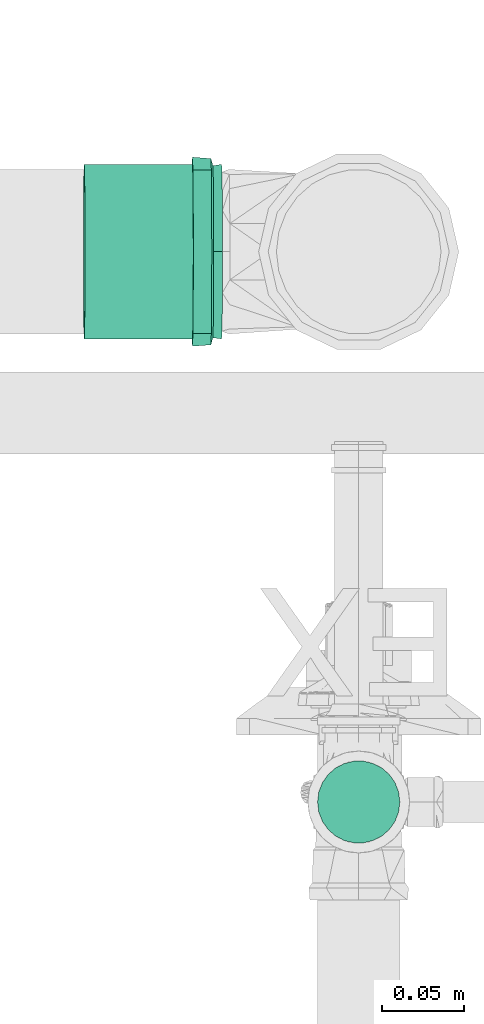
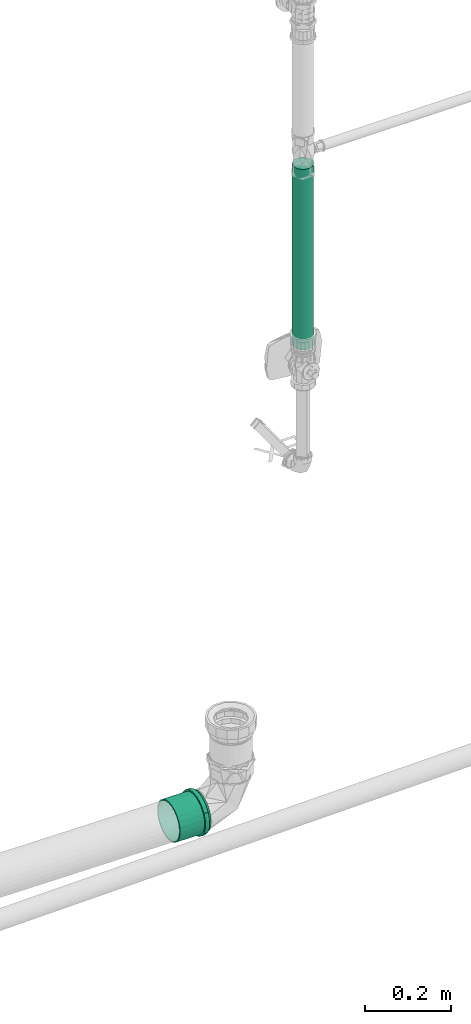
# One storey, part 244 of 589: 1 flow fitting, 1 flow segment.
"""IFC2X3 building model written with IfcOpenShell, lengths in millimetres."""

from ifc_helpers import new_model, entity, si_unit, converted_unit, derived_unit, direction, frame, frame_2d, origin, place, context, subcontext, project, spatial, circle, extrude, faceted_brep, source, transform, mapped, material, type_object, type_shapes, element, save


model = new_model("IFC2X3")

# Units and contexts
model_context = context("Model", 3, precision=0.01, world=origin(), true_north=direction((6.123031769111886e-17, 1.0)))
body_context = subcontext(model_context, "Body", "Model", "MODEL_VIEW")
ifc_project = project(units=[si_unit("LENGTHUNIT", "METRE", prefix="MILLI"), si_unit("AREAUNIT", "SQUARE_METRE"), si_unit("VOLUMEUNIT", "CUBIC_METRE"), converted_unit("PLANEANGLEUNIT", "DEGREE", entity("IfcRatioMeasure", 0.017453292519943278), si_unit("PLANEANGLEUNIT", "RADIAN"), dimensions=[0, 0, 0, 0, 0, 0, 0]), si_unit("MASSUNIT", "GRAM", prefix="KILO"), derived_unit("MASSDENSITYUNIT", [(si_unit("MASSUNIT", "GRAM", prefix="KILO"), 1), (si_unit("LENGTHUNIT", "METRE"), -3)]), derived_unit("IONCONCENTRATIONUNIT", [(si_unit("MASSUNIT", "GRAM", prefix="KILO"), 1), (si_unit("LENGTHUNIT", "METRE"), -3)]), derived_unit("MOMENTOFINERTIAUNIT", [(si_unit("LENGTHUNIT", "METRE"), 4)]), si_unit("TIMEUNIT", "SECOND"), si_unit("FREQUENCYUNIT", "HERTZ"), si_unit("THERMODYNAMICTEMPERATUREUNIT", "DEGREE_CELSIUS"), derived_unit("THERMALTRANSMITTANCEUNIT", [(si_unit("MASSUNIT", "GRAM", prefix="KILO"), 1), (si_unit("THERMODYNAMICTEMPERATUREUNIT", "KELVIN"), -1), (si_unit("TIMEUNIT", "SECOND"), -3)]), derived_unit("THERMALCONDUCTANCEUNIT", [(si_unit("MASSUNIT", "GRAM", prefix="KILO"), 1), (si_unit("THERMODYNAMICTEMPERATUREUNIT", "KELVIN"), -1), (si_unit("TIMEUNIT", "SECOND"), -3), (si_unit("LENGTHUNIT", "METRE"), 1)]), derived_unit("VOLUMETRICFLOWRATEUNIT", [(si_unit("LENGTHUNIT", "METRE"), 3), (si_unit("TIMEUNIT", "SECOND"), -1)]), derived_unit("MASSFLOWRATEUNIT", [(si_unit("MASSUNIT", "GRAM", prefix="KILO"), 1), (si_unit("TIMEUNIT", "SECOND"), -1)]), derived_unit("ROTATIONALFREQUENCYUNIT", [(si_unit("TIMEUNIT", "SECOND"), -1)]), si_unit("ELECTRICCURRENTUNIT", "AMPERE"), si_unit("ELECTRICVOLTAGEUNIT", "VOLT"), si_unit("POWERUNIT", "WATT"), si_unit("FORCEUNIT", "NEWTON", prefix="KILO"), si_unit("ILLUMINANCEUNIT", "LUX"), si_unit("LUMINOUSFLUXUNIT", "LUMEN"), si_unit("LUMINOUSINTENSITYUNIT", "CANDELA"), derived_unit("USERDEFINED", [(si_unit("MASSUNIT", "GRAM", prefix="KILO"), -1), (si_unit("LENGTHUNIT", "METRE"), -2), (si_unit("TIMEUNIT", "SECOND"), 3), (si_unit("LUMINOUSFLUXUNIT", "LUMEN"), 1)]), derived_unit("USERDEFINED", [(si_unit("MASSUNIT", "GRAM", prefix="KILO"), 1), (si_unit("TIMEUNIT", "SECOND"), -3), (si_unit("LENGTHUNIT", "METRE"), 3), (si_unit("ELECTRICCURRENTUNIT", "AMPERE"), -2)]), derived_unit("SOUNDPOWERUNIT", [(si_unit("MASSUNIT", "GRAM", prefix="KILO"), 1), (si_unit("TIMEUNIT", "SECOND"), -3), (si_unit("LENGTHUNIT", "METRE"), 2)]), derived_unit("SOUNDPRESSUREUNIT", [(si_unit("MASSUNIT", "GRAM", prefix="KILO"), 1), (si_unit("LENGTHUNIT", "METRE"), -1), (si_unit("TIMEUNIT", "SECOND"), -2)]), derived_unit("LINEARVELOCITYUNIT", [(si_unit("LENGTHUNIT", "METRE"), 1), (si_unit("TIMEUNIT", "SECOND"), -1)]), si_unit("PRESSUREUNIT", "PASCAL"), derived_unit("USERDEFINED", [(si_unit("MASSUNIT", "GRAM", prefix="KILO"), 1), (si_unit("LENGTHUNIT", "METRE"), -2), (si_unit("TIMEUNIT", "SECOND"), -2)]), derived_unit("LINEARFORCEUNIT", [(si_unit("MASSUNIT", "GRAM", prefix="KILO"), 1), (si_unit("TIMEUNIT", "SECOND"), -2)]), derived_unit("PLANARFORCEUNIT", [(si_unit("MASSUNIT", "GRAM", prefix="KILO"), 1), (si_unit("LENGTHUNIT", "METRE"), -1), (si_unit("TIMEUNIT", "SECOND"), -2)]), derived_unit("SPECIFICHEATCAPACITYUNIT", [(si_unit("THERMODYNAMICTEMPERATUREUNIT", "KELVIN"), -1), (si_unit("LENGTHUNIT", "METRE"), 2), (si_unit("TIMEUNIT", "SECOND"), -2)]), derived_unit("HEATINGVALUEUNIT", [(si_unit("LENGTHUNIT", "METRE"), 2), (si_unit("TIMEUNIT", "SECOND"), -2)]), derived_unit("VAPORPERMEABILITYUNIT", [(si_unit("LENGTHUNIT", "METRE"), -1), (si_unit("TIMEUNIT", "SECOND"), 1)]), derived_unit("DYNAMICVISCOSITYUNIT", [(si_unit("MASSUNIT", "GRAM", prefix="KILO"), 1), (si_unit("TIMEUNIT", "SECOND"), -1), (si_unit("LENGTHUNIT", "METRE"), -1)]), derived_unit("THERMALEXPANSIONCOEFFICIENTUNIT", [(si_unit("THERMODYNAMICTEMPERATUREUNIT", "KELVIN"), -1)]), derived_unit("MODULUSOFELASTICITYUNIT", [(si_unit("MASSUNIT", "GRAM", prefix="KILO"), 1), (si_unit("LENGTHUNIT", "METRE"), -1), (si_unit("TIMEUNIT", "SECOND"), -2)]), derived_unit("ISOTHERMALMOISTURECAPACITYUNIT", [(si_unit("LENGTHUNIT", "METRE"), 3), (si_unit("MASSUNIT", "GRAM", prefix="KILO"), -1)]), derived_unit("MOISTUREDIFFUSIVITYUNIT", [(si_unit("TIMEUNIT", "SECOND"), -1), (si_unit("LENGTHUNIT", "METRE"), 2)])], contexts=[model_context])

# Site, building, storey
site_placement = place(None, origin())
site = spatial("IfcSite", under=ifc_project, at=site_placement, Name="Default", CompositionType="ELEMENT")
building_placement = place(site_placement, origin())
building = spatial("IfcBuilding", under=site, at=building_placement, CompositionType="ELEMENT")
storey_placement = place(building_placement, frame((0.0, 0.0, 100.0)))
storey = spatial("IfcBuildingStorey", under=building, at=storey_placement, Name="TÉRREO", CompositionType="ELEMENT", Elevation=100.0)

# Flow segment
pipe_segment_type = type_object("IfcPipeSegmentType", Name="Tipos de tubos:PVC Marrom Soldável", PredefinedType="NOTDEFINED")
flow_segment_placement = place(storey_placement, origin())
element("IfcFlowSegment", 1, at=flow_segment_placement, inside=storey, type_object=pipe_segment_type, Name="Tipos de tubos:PVC Marrom Soldável", ObjectType="Tipos de tubos:PVC Marrom Soldável", context=body_context, shape_type="SweptSolid", body=[
    extrude(circle(Radius=25.0, at=frame_2d((1.6919798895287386e-14, 0.0), x_axis=(1.0, 0.0))), frame((-87.78535366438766, 3119.2147625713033, 1255.7041463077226)), (0.0, 0.0, 1.0), 511.6958536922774),
])

# Flow fitting
ifc_material = material(Name="PVC Série Normal")
pipe_fitting_type = type_object("IfcPipeFittingType", Name="PVC Esgoto_Luva Simples para Conexão_Rodrigo MEP:Standard", PredefinedType="NOTDEFINED", material=ifc_material)
shared_shape = source(origin(), body_context, "Body", "Brep", [
    faceted_brep([(17.770000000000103, 28.72500000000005, -49.753159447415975), (17.770000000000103, 40.62328457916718, -40.62328457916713), (17.770000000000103, 26.524999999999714, -45.94264767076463), (17.770000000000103, 13.730350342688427, -51.242365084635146), (17.770000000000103, 14.86915414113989, -55.49243872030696), (17.770000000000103, 37.5120147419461, -37.51201474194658), (17.770000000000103, 49.75315944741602, -28.724999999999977), (17.770000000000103, 45.94264767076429, -26.52500000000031), (17.770000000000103, 51.24236508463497, -13.730350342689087), (17.770000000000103, 55.49243872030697, -14.869154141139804), (17.770000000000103, 53.05, 0.0), (17.770000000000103, 57.45, 0.0), (17.770000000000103, 51.242365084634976, 13.730350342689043), (17.770000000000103, 55.49243872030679, 14.869154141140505), (17.770000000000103, 45.942647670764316, 26.52500000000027), (17.770000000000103, 49.753159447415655, 28.725000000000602), (17.770000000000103, 37.51201474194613, 37.51201474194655), (17.770000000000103, 40.62328457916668, 40.62328457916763), (17.770000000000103, 26.524999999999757, 45.9426476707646), (17.770000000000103, 28.72499999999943, 49.75315944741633), (17.770000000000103, 13.730350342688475, 51.24236508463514), (17.770000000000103, 14.8691541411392, 55.49243872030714), (17.770000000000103, 0.0, 53.05), (17.770000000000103, 0.0, 57.45), (17.770000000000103, -13.730350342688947, 51.24236508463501), (17.770000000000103, -14.869154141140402, 55.49243872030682), (17.770000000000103, -26.52500000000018, 45.94264767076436), (17.770000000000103, -28.725000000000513, 49.753159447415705), (17.770000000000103, -37.51201474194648, 37.5120147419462), (17.770000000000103, -40.62328457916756, 40.62328457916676), (17.770000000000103, -45.94264767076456, 26.524999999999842), (17.770000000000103, -49.7531594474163, 28.724999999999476), (17.770000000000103, -55.49243872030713, 14.869154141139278), (17.770000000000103, -51.24236508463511, 13.730350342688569), (17.770000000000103, -57.45, 0.0), (17.770000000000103, -53.05, 0.0), (17.770000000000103, -55.49243872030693, -14.86915414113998), (17.770000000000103, -51.24236508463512, -13.73035034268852), (17.770000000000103, -49.75315944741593, -28.72500000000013), (17.770000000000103, -45.942647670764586, -26.5249999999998), (17.770000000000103, -40.62328457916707, -40.62328457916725), (17.770000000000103, -37.512014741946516, -37.51201474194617), (17.770000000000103, -28.724999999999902, -49.75315944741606), (17.770000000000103, -26.525000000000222, -45.94264767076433), (17.770000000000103, -14.869154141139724, -55.492438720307), (17.770000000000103, -13.730350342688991, -51.242365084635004), (17.770000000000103, 0.0, -57.45), (17.770000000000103, 0.0, -53.05), (6.570000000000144, -19.34638876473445, 53.16657713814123), (6.57000000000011, -44.00761900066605, 36.93009572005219), (6.5700000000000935, -48.99626263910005, 28.290173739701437), (6.5700000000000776, -53.98490627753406, 19.65025175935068), (6.570000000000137, -28.721697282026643, 49.75506612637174), (6.570000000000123, -36.36465814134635, 43.34258092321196), (6.57000000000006, -55.71745313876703, 9.825125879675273), (6.570000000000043, -57.45, 0.0), (6.570000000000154, -9.971080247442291, 56.57808814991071), (6.570000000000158, 9.98234714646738, 56.576101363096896), (6.570000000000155, 0.005633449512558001, 56.577094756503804), (6.570000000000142, 36.37328876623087, 43.33533831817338), (6.570000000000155, 19.356976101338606, 53.16272339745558), (6.570000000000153, 28.73160505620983, 49.749345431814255), (6.5700000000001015, 53.988818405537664, 19.639500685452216), (6.570000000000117, 49.00189544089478, 28.280415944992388), (6.570000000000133, 44.01497247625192, 36.921331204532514), (6.570000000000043, 57.45, 0.0), (6.569999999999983, 44.01497247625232, -36.92133120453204), (6.569999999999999, 49.0018954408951, -28.280415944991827), (6.570000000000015, 53.98881840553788, -19.63950068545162), (6.569999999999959, 28.731605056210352, -49.74934543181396), (6.569999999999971, 36.37328876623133, -43.335338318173), (6.569999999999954, 19.35697610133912, -53.16272339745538), (6.569999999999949, 9.982347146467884, -56.57610136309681), (6.569999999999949, -9.97108024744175, -56.578088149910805), (6.569999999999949, 0.005633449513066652, -56.577094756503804), (6.569999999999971, -36.364658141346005, -43.34258092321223), (6.56999999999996, -28.72169728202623, -49.755066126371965), (6.569999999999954, -19.346388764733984, -53.16657713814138), (6.57000000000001, -53.984906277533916, -19.650251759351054), (6.569999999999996, -48.99626263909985, -28.290173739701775), (6.569999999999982, -44.007619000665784, -36.93009572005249), (6.570000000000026, -55.717453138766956, -9.825125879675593), (83.52000000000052, 26.525000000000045, -45.942647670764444), (83.52000000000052, 37.512014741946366, -37.51201474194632), (83.52000000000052, 25.0, -43.301270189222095), (83.52000000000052, 12.940952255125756, -48.2962913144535), (83.52000000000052, 13.73035034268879, -51.242365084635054), (83.52000000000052, 35.35533905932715, -35.355339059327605), (83.52000000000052, 45.94264767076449, -26.524999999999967), (83.52000000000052, 43.30127018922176, -25.0), (83.52000000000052, 48.29629131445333, -12.940952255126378), (83.52000000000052, 51.24236508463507, -13.730350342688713), (83.52000000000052, 50.0, 0.0), (83.52000000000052, 53.05, 0.0), (83.52000000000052, 48.296291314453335, 12.940952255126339), (83.52000000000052, 51.2423650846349, 13.73035034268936), (83.52000000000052, 43.30127018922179, 25.0), (83.52000000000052, 45.942647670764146, 26.525000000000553), (83.52000000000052, 35.35533905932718, 35.35533905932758), (83.52000000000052, 37.512014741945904, 37.512014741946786), (83.52000000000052, 25.0, 43.301270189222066), (83.52000000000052, 26.52499999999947, 45.94264767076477), (83.52000000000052, 12.9409522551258, 48.29629131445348), (83.52000000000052, 13.730350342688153, 51.242365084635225), (83.52000000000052, 0.0, 50.0), (83.52000000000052, 0.0, 53.05), (83.52000000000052, -12.94095225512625, 48.296291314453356), (83.52000000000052, -13.730350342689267, 51.24236508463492), (83.52000000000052, -25.0, 43.30127018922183), (83.52000000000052, -26.525000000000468, 45.942647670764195), (83.52000000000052, -35.355339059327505, 35.35533905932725), (83.52000000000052, -37.512014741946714, 37.51201474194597), (83.52000000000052, -43.30127018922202, 25.0), (83.52000000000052, -45.942647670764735, 26.524999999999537), (83.52000000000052, -51.24236508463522, 13.730350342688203), (83.52000000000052, -48.29629131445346, 12.94095225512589), (83.52000000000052, -53.05, 0.0), (83.52000000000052, -50.0, 0.0), (83.52000000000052, -51.242365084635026, -13.730350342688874), (83.52000000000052, -48.29629131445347, -12.940952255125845), (83.52000000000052, -45.9426476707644, -26.525000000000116), (83.52000000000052, -43.301270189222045, -25.0), (83.52000000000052, -37.51201474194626, -37.51201474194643), (83.52000000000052, -35.35533905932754, -35.355339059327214), (83.52000000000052, -26.524999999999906, -45.94264767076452), (83.52000000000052, -25.0, -43.30127018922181), (83.52000000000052, -13.730350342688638, -51.2423650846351), (83.52000000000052, -12.94095225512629, -48.29629131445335), (83.52000000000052, 0.0, -53.05), (83.52000000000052, 0.0, -50.0), (0.0, 25.0, -43.301270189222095), (0.0, 37.512014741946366, -37.51201474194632), (0.0, 26.525000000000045, -45.942647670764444), (0.0, 12.940952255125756, -48.2962913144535), (0.0, 35.35533905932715, -35.355339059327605), (0.0, 45.94264767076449, -26.524999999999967), (0.0, 43.30127018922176, -25.0), (0.0, 48.29629131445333, -12.940952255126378), (0.0, 51.24236508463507, -13.730350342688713), (0.0, 50.0, 0.0), (0.0, 53.05, 0.0), (0.0, 48.296291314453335, 12.940952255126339), (0.0, 51.2423650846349, 13.73035034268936), (0.0, 43.30127018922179, 25.0), (0.0, 45.942647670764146, 26.525000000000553), (0.0, 35.35533905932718, 35.35533905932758), (0.0, 37.512014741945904, 37.512014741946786), (0.0, 25.0, 43.301270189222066), (0.0, 26.52499999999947, 45.94264767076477), (0.0, 12.9409522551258, 48.29629131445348), (0.0, 13.730350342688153, 51.242365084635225), (0.0, 0.0, 50.0), (0.0, 0.0, 53.05), (0.0, -12.94095225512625, 48.296291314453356), (0.0, -13.730350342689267, 51.24236508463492), (0.0, -25.0, 43.30127018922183), (0.0, -26.525000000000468, 45.942647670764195), (0.0, -35.355339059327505, 35.35533905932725), (0.0, -37.512014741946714, 37.51201474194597), (0.0, -43.30127018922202, 25.0), (0.0, -45.942647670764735, 26.524999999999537), (0.0, -51.24236508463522, 13.730350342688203), (0.0, -48.29629131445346, 12.94095225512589), (0.0, -53.05, 0.0), (0.0, -50.0, 0.0), (0.0, -51.242365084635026, -13.730350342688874), (0.0, -48.29629131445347, -12.940952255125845), (0.0, -45.9426476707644, -26.525000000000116), (0.0, -43.301270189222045, -25.0), (0.0, -37.51201474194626, -37.51201474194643), (0.0, -35.35533905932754, -35.355339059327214), (0.0, -26.524999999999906, -45.94264767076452), (0.0, -25.0, -43.30127018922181), (0.0, -13.730350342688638, -51.2423650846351), (0.0, -12.94095225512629, -48.29629131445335), (0.0, 0.0, -53.05), (0.0, 0.0, -50.0), (0.0, 13.73035034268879, -51.242365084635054), (5.370000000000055, -53.05, 0.0), (5.370000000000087, -49.85079898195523, 18.143878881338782), (5.370000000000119, -40.63905406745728, 34.09941032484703), (5.370000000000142, -26.525801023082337, 45.942185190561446), (5.3700000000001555, -9.213250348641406, 52.24383712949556), (5.370000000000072, 51.44992493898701, 9.073243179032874), (5.370000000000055, 53.05, 0.0), (5.370000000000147, 26.523397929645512, 45.943572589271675), (5.370000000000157, 9.210517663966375, 52.244318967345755), (5.3700000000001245, 40.63727040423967, 34.10153594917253), (5.370000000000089, 49.84984987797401, 18.146486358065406), (5.370000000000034, 51.4499249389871, -9.073243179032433), (5.370000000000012, 49.84984987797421, -18.146486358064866), (5.369999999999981, 40.63727040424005, -34.101535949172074), (5.36999999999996, 26.523397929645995, -45.9435725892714), (5.369999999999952, 9.21051766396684, -52.24431896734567), (5.369999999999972, -26.52580102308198, -45.94218519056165), (5.369999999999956, -9.213250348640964, -52.24383712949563), (5.369999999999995, -40.63905406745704, -34.099410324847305), (5.370000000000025, -49.8507989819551, -18.143878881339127), (50.0, -50.0, 0.0), (50.0, 50.0, 0.0)], [[[0, 1, 2]], [[0, 2, 3]], [[3, 4, 0]], [[2, 1, 5]], [[6, 5, 1]], [[5, 6, 7]], [[7, 6, 8]], [[9, 8, 6]], [[9, 10, 8]], [[10, 9, 11]], [[12, 10, 11]], [[11, 13, 12]], [[12, 13, 14]], [[15, 14, 13]], [[14, 15, 16]], [[16, 15, 17]], [[18, 16, 17]], [[17, 19, 18]], [[18, 19, 20]], [[21, 20, 19]], [[20, 21, 22]], [[22, 21, 23]], [[22, 23, 24]], [[24, 23, 25]], [[24, 25, 26]], [[27, 26, 25]], [[27, 28, 26]], [[28, 27, 29]], [[29, 30, 28]], [[31, 30, 29]], [[30, 31, 32]], [[32, 33, 30]], [[34, 33, 32]], [[34, 35, 33]], [[36, 35, 34]], [[36, 37, 35]], [[37, 36, 38]], [[38, 39, 37]], [[39, 38, 40]], [[39, 40, 41]], [[40, 42, 41]], [[41, 42, 43]], [[43, 42, 44]], [[44, 45, 43]], [[46, 45, 44]], [[4, 47, 46]], [[46, 47, 45]], [[4, 3, 47]], [[48, 27, 25]], [[31, 29, 49]], [[31, 49, 50, 51]], [[52, 53, 27]], [[32, 51, 54]], [[54, 55, 34]], [[54, 34, 32]], [[25, 56, 48]], [[49, 29, 53]], [[23, 57, 58, 56]], [[59, 19, 17]], [[27, 53, 29]], [[48, 52, 27]], [[31, 51, 32]], [[57, 23, 21]], [[60, 19, 61]], [[15, 62, 63, 64]], [[19, 60, 21]], [[15, 13, 62]], [[17, 64, 59]], [[57, 21, 60]], [[23, 56, 25]], [[15, 64, 17]], [[13, 65, 62]], [[13, 11, 65]], [[59, 61, 19]], [[65, 11, 9]], [[6, 1, 66]], [[6, 66, 67, 68]], [[69, 70, 0]], [[68, 65, 9]], [[71, 69, 0]], [[71, 0, 4]], [[4, 72, 71]], [[66, 1, 70]], [[46, 73, 74, 72]], [[75, 76, 42]], [[0, 70, 1]], [[75, 42, 40]], [[6, 68, 9]], [[73, 46, 44]], [[77, 42, 76]], [[38, 78, 79, 80]], [[42, 77, 44]], [[38, 36, 78]], [[40, 80, 75]], [[73, 44, 77]], [[46, 72, 4]], [[38, 80, 40]], [[81, 78, 36]], [[55, 81, 34]], [[34, 81, 36]], [[82, 83, 84]], [[82, 84, 85]], [[85, 86, 82]], [[84, 83, 87]], [[88, 87, 83]], [[87, 88, 89]], [[89, 88, 90]], [[91, 90, 88]], [[91, 92, 90]], [[92, 91, 93]], [[94, 92, 93]], [[93, 95, 94]], [[94, 95, 96]], [[97, 96, 95]], [[96, 97, 98]], [[98, 97, 99]], [[100, 98, 99]], [[99, 101, 100]], [[100, 101, 102]], [[103, 102, 101]], [[102, 103, 104]], [[104, 103, 105]], [[104, 105, 106]], [[106, 105, 107]], [[106, 107, 108]], [[109, 108, 107]], [[110, 108, 109]], [[110, 109, 111]], [[111, 112, 110]], [[113, 112, 111]], [[112, 113, 114]], [[114, 115, 112]], [[116, 115, 114]], [[116, 117, 115]], [[118, 117, 116]], [[118, 119, 117]], [[119, 118, 120]], [[120, 121, 119]], [[121, 120, 122]], [[121, 122, 123]], [[122, 124, 123]], [[125, 123, 124]], [[125, 124, 126]], [[126, 127, 125]], [[128, 127, 126]], [[86, 129, 128]], [[128, 129, 127]], [[86, 85, 129]], [[130, 131, 132]], [[133, 130, 132]], [[134, 131, 130]], [[131, 134, 135]], [[136, 135, 134]], [[137, 135, 136]], [[135, 137, 138]], [[137, 139, 138]], [[140, 138, 139]], [[140, 139, 141]], [[141, 142, 140]], [[143, 142, 141]], [[142, 143, 144]], [[145, 144, 143]], [[146, 144, 145]], [[146, 145, 147]], [[147, 148, 146]], [[149, 148, 147]], [[148, 149, 150]], [[151, 150, 149]], [[152, 150, 151]], [[153, 152, 151]], [[154, 152, 153]], [[155, 154, 153]], [[154, 155, 156]], [[156, 155, 157]], [[158, 156, 157]], [[157, 159, 158]], [[158, 159, 160]], [[161, 160, 159]], [[159, 162, 161]], [[161, 162, 163]], [[162, 164, 163]], [[163, 164, 165]], [[164, 166, 165]], [[167, 165, 166]], [[166, 168, 167]], [[169, 167, 168]], [[170, 169, 168]], [[170, 171, 169]], [[171, 170, 172]], [[173, 171, 172]], [[172, 174, 173]], [[173, 174, 175]], [[174, 176, 175]], [[176, 133, 177]], [[175, 176, 177]], [[132, 177, 133]], [[161, 178, 179]], [[158, 180, 181]], [[179, 180, 160]], [[181, 182, 154]], [[179, 160, 161]], [[161, 163, 178]], [[35, 116, 114, 33]], [[183, 184, 140]], [[181, 156, 158]], [[158, 160, 180]], [[181, 154, 156]], [[182, 152, 154]], [[183, 140, 142]], [[185, 150, 186]], [[187, 146, 185]], [[142, 188, 183]], [[187, 188, 144]], [[185, 148, 150]], [[150, 152, 186]], [[187, 144, 146]], [[146, 148, 185]], [[188, 142, 144]], [[186, 152, 182]], [[189, 190, 138]], [[131, 191, 192]], [[190, 191, 135]], [[192, 193, 177]], [[190, 135, 138]], [[184, 189, 140]], [[192, 132, 131]], [[131, 135, 191]], [[192, 177, 132]], [[193, 175, 177]], [[140, 189, 138]], [[194, 173, 195]], [[196, 169, 194]], [[165, 197, 178]], [[196, 197, 167]], [[165, 178, 163]], [[35, 37, 118, 116]], [[194, 171, 173]], [[173, 175, 195]], [[196, 167, 169]], [[169, 171, 194]], [[197, 165, 167]], [[195, 175, 193]], [[115, 117, 198, 164, 162]], [[155, 108, 110, 157]], [[110, 112, 159, 157]], [[112, 115, 162, 159]], [[106, 108, 155, 153]], [[153, 151, 104, 106]], [[102, 104, 151, 149]], [[102, 149, 147, 100]], [[141, 94, 96, 143]], [[96, 98, 145, 143]], [[98, 100, 147, 145]], [[92, 94, 141, 139, 199]], [[199, 139, 137, 90, 92]], [[87, 89, 136, 134]], [[134, 130, 84, 87]], [[89, 90, 137, 136]], [[85, 84, 130, 133]], [[133, 176, 129, 85]], [[127, 129, 176, 174]], [[127, 174, 172, 125]], [[166, 119, 121, 168]], [[121, 123, 170, 168]], [[123, 125, 172, 170]], [[117, 119, 166, 164, 198]], [[81, 178, 197]], [[190, 68, 67]], [[194, 75, 196]], [[193, 72, 74]], [[195, 77, 194]], [[79, 197, 196]], [[81, 55, 178]], [[192, 69, 71]], [[79, 78, 197]], [[194, 77, 76]], [[191, 66, 70]], [[80, 196, 75]], [[68, 190, 189]], [[74, 195, 193]], [[192, 71, 193]], [[190, 67, 191]], [[70, 192, 191]], [[65, 189, 184]], [[195, 73, 77]], [[193, 71, 72]], [[197, 78, 81]], [[191, 67, 66]], [[189, 65, 68]], [[196, 80, 79]], [[70, 69, 192]], [[194, 76, 75]], [[73, 195, 74]], [[65, 183, 62]], [[48, 56, 182]], [[58, 182, 56]], [[54, 51, 179]], [[59, 185, 61]], [[60, 186, 57]], [[53, 52, 181]], [[63, 187, 64]], [[58, 57, 186]], [[187, 63, 188]], [[186, 60, 185]], [[50, 49, 180]], [[185, 59, 187]], [[59, 64, 187]], [[182, 58, 186]], [[50, 179, 51]], [[54, 178, 55]], [[53, 180, 49]], [[63, 62, 188]], [[181, 48, 182]], [[183, 65, 184]], [[179, 50, 180]], [[178, 54, 179]], [[183, 188, 62]], [[180, 53, 181]], [[60, 61, 185]], [[48, 181, 52]], [[30, 33, 114, 113]], [[26, 28, 111, 109]], [[113, 111, 28, 30]], [[107, 24, 26, 109]], [[107, 105, 22, 24]], [[18, 20, 103, 101]], [[99, 16, 18, 101]], [[12, 14, 97, 95]], [[99, 97, 14, 16]], [[10, 12, 95, 93]], [[103, 20, 22, 105]], [[91, 8, 10, 93]], [[88, 7, 8, 91]], [[82, 86, 3, 2]], [[83, 5, 7, 88]], [[2, 5, 83, 82]], [[86, 128, 47, 3]], [[43, 45, 126, 124]], [[122, 41, 43, 124]], [[37, 39, 120, 118]], [[122, 120, 39, 41]], [[126, 45, 47, 128]]]),
])
type_shapes(pipe_fitting_type, [shared_shape])
flow_fitting_placement = place(storey_placement, frame((-171.0650896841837, 3453.5703177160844, -240.44451356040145), z_axis=(0.0, 1.0, 0.0), x_axis=(-0.9999500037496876, 0.0, 0.009999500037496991)))
element("IfcFlowFitting", 2, at=flow_fitting_placement, inside=storey, type_object=pipe_fitting_type, material=ifc_material, Name="PVC Esgoto_Luva Simples para Conexão_Rodrigo MEP:Standard", ObjectType="PVC Esgoto_Luva Simples para Conexão_Rodrigo MEP:Standard", context=body_context, shape_type="MappedRepresentation", body=[
    mapped(shared_shape, transform((0.0, 0.0, 0.0), scale=1.0)),
])

save(model, "model.ifc")
